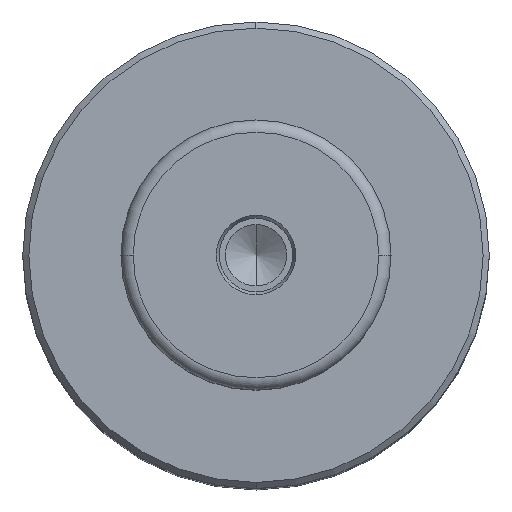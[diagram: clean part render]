
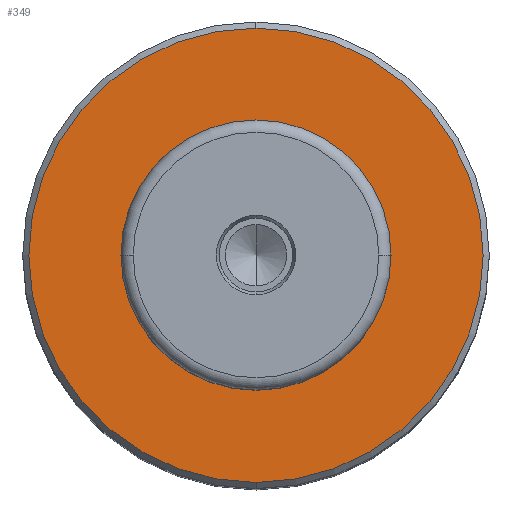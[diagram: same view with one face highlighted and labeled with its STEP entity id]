
A CAD part, top view. The second image highlights one B-rep face of the part: STEP entity #349.
In plain terms, the highlighted planar face has unit normal (0, 0, 1).
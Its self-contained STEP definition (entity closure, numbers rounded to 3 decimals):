
#252 = VERTEX_POINT('',#253);
#253 = CARTESIAN_POINT('',(0.,18.5,66.));
#259 = EDGE_CURVE('',#260,#252,#262,.T.);
#260 = VERTEX_POINT('',#261);
#261 = CARTESIAN_POINT('',(0.,-18.5,66.));
#262 = CIRCLE('',#263,18.5);
#263 = AXIS2_PLACEMENT_3D('',#264,#265,#266);
#264 = CARTESIAN_POINT('',(0.,0.,66.));
#265 = DIRECTION('',(0.,0.,1.));
#266 = DIRECTION('',(0.,1.,0.));
#286 = EDGE_CURVE('',#252,#260,#287,.T.);
#287 = CIRCLE('',#288,18.5);
#288 = AXIS2_PLACEMENT_3D('',#289,#290,#291);
#289 = CARTESIAN_POINT('',(0.,0.,66.));
#290 = DIRECTION('',(0.,0.,1.));
#291 = DIRECTION('',(0.,1.,0.));
#349 = ADVANCED_FACE('',(#350,#370),#374,.T.);
#350 = FACE_BOUND('',#351,.T.);
#351 = EDGE_LOOP('',(#352,#363));
#352 = ORIENTED_EDGE('',*,*,#353,.F.);
#353 = EDGE_CURVE('',#354,#356,#358,.T.);
#354 = VERTEX_POINT('',#355);
#355 = CARTESIAN_POINT('',(0.,11.,66.));
#356 = VERTEX_POINT('',#357);
#357 = CARTESIAN_POINT('',(0.,-11.,66.));
#358 = CIRCLE('',#359,11.);
#359 = AXIS2_PLACEMENT_3D('',#360,#361,#362);
#360 = CARTESIAN_POINT('',(0.,0.,66.));
#361 = DIRECTION('',(0.,0.,1.));
#362 = DIRECTION('',(0.,1.,0.));
#363 = ORIENTED_EDGE('',*,*,#364,.F.);
#364 = EDGE_CURVE('',#356,#354,#365,.T.);
#365 = CIRCLE('',#366,11.);
#366 = AXIS2_PLACEMENT_3D('',#367,#368,#369);
#367 = CARTESIAN_POINT('',(0.,0.,66.));
#368 = DIRECTION('',(0.,0.,1.));
#369 = DIRECTION('',(0.,1.,0.));
#370 = FACE_BOUND('',#371,.T.);
#371 = EDGE_LOOP('',(#372,#373));
#372 = ORIENTED_EDGE('',*,*,#286,.T.);
#373 = ORIENTED_EDGE('',*,*,#259,.T.);
#374 = PLANE('',#375);
#375 = AXIS2_PLACEMENT_3D('',#376,#377,#378);
#376 = CARTESIAN_POINT('',(0.,14.75,66.));
#377 = DIRECTION('',(0.,0.,1.));
#378 = DIRECTION('',(0.,1.,0.));
